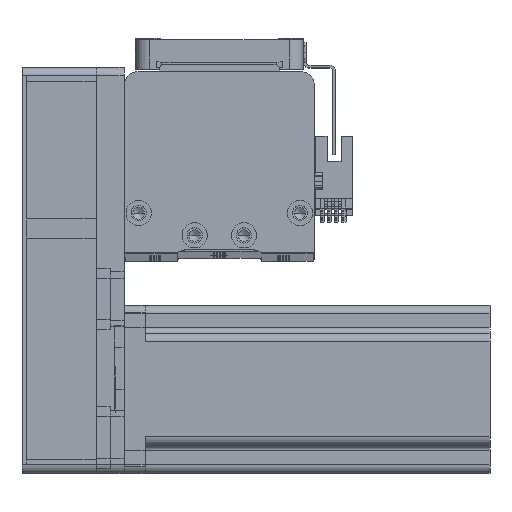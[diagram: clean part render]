
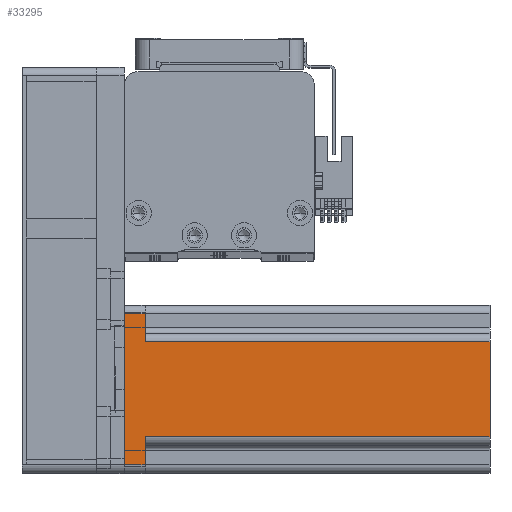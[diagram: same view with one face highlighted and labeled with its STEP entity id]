
A CAD part, top view. The second image highlights one B-rep face of the part: STEP entity #33295.
In plain terms, the highlighted planar face has unit normal (0, 0, 1) as drawn and (0, -1, 0) by its records, which use the part's own axes.
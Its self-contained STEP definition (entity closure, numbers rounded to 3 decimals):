
#1388 = DIRECTION ( 'NONE',  ( -1., 0., 0. ) ) ;
#1431 = AXIS2_PLACEMENT_3D ( 'NONE', #18191, #46937, #22315 ) ;
#1933 = DIRECTION ( 'NONE',  ( 1., 0., 0. ) ) ;
#3733 = CARTESIAN_POINT ( 'NONE',  ( 30., -30., 130.7 ) ) ;
#4481 = FACE_OUTER_BOUND ( 'NONE', #31182, .T. ) ;
#6118 = ORIENTED_EDGE ( 'NONE', *, *, #20941, .T. ) ;
#7701 = VERTEX_POINT ( 'NONE', #42173 ) ;
#8423 = VECTOR ( 'NONE', #1933, 1000. ) ;
#8552 = ORIENTED_EDGE ( 'NONE', *, *, #52414, .T. ) ;
#8896 = LINE ( 'NONE', #24105, #30676 ) ;
#9662 = CARTESIAN_POINT ( 'NONE',  ( 30., -30., 0. ) ) ;
#10373 = CARTESIAN_POINT ( 'NONE',  ( -17., -30., 130.7 ) ) ;
#10430 = CARTESIAN_POINT ( 'NONE',  ( -27., -30., 7.5 ) ) ;
#11056 = ORIENTED_EDGE ( 'NONE', *, *, #13433, .T. ) ;
#11540 = VECTOR ( 'NONE', #28764, 1000. ) ;
#12833 = VERTEX_POINT ( 'NONE', #51144 ) ;
#13433 = EDGE_CURVE ( 'NONE', #28374, #7701, #44290, .T. ) ;
#14974 = VECTOR ( 'NONE', #34195, 1000. ) ;
#15881 = VERTEX_POINT ( 'NONE', #51773 ) ;
#17419 = CARTESIAN_POINT ( 'NONE',  ( 17., -30., 130.7 ) ) ;
#17766 = CARTESIAN_POINT ( 'NONE',  ( 20., -30., 7.5 ) ) ;
#18191 = CARTESIAN_POINT ( 'NONE',  ( 30., -30., 130.7 ) ) ;
#19896 = CARTESIAN_POINT ( 'NONE',  ( 27., -30., 0. ) ) ;
#20138 = DIRECTION ( 'NONE',  ( 1., 0., 0. ) ) ;
#20514 = CARTESIAN_POINT ( 'NONE',  ( 27., -30., 130.7 ) ) ;
#20941 = EDGE_CURVE ( 'NONE', #24311, #12833, #8896, .T. ) ;
#21527 = ORIENTED_EDGE ( 'NONE', *, *, #23461, .T. ) ;
#22315 = DIRECTION ( 'NONE',  ( -1., 0., 0. ) ) ;
#22699 = ORIENTED_EDGE ( 'NONE', *, *, #44645, .T. ) ;
#22969 = CARTESIAN_POINT ( 'NONE',  ( -17., -30., 130.7 ) ) ;
#23461 = EDGE_CURVE ( 'NONE', #7701, #28076, #26072, .T. ) ;
#24105 = CARTESIAN_POINT ( 'NONE',  ( -27., -30., 130.7 ) ) ;
#24311 = VERTEX_POINT ( 'NONE', #10430 ) ;
#24610 = CARTESIAN_POINT ( 'NONE',  ( 17., -30., 130.7 ) ) ;
#24755 = VECTOR ( 'NONE', #1388, 1000. ) ;
#24965 = ORIENTED_EDGE ( 'NONE', *, *, #46911, .T. ) ;
#25202 = ORIENTED_EDGE ( 'NONE', *, *, #47699, .F. ) ;
#26072 = LINE ( 'NONE', #17766, #24755 ) ;
#26827 = VERTEX_POINT ( 'NONE', #10373 ) ;
#26854 = LINE ( 'NONE', #22969, #36452 ) ;
#27835 = EDGE_CURVE ( 'NONE', #26827, #40270, #50306, .T. ) ;
#28076 = VERTEX_POINT ( 'NONE', #34103 ) ;
#28374 = VERTEX_POINT ( 'NONE', #19896 ) ;
#28764 = DIRECTION ( 'NONE',  ( 0., 0., 1. ) ) ;
#29866 = ORIENTED_EDGE ( 'NONE', *, *, #27835, .F. ) ;
#30167 = LINE ( 'NONE', #24610, #39769 ) ;
#30676 = VECTOR ( 'NONE', #44440, 1000. ) ;
#31182 = EDGE_LOOP ( 'NONE', ( #29866, #24965, #25202, #6118, #22699, #11056, #21527, #8552 ) ) ;
#33295 = ADVANCED_FACE ( 'NONE', ( #4481 ), #50910, .F. ) ;
#34103 = CARTESIAN_POINT ( 'NONE',  ( 17., -30., 7.5 ) ) ;
#34195 = DIRECTION ( 'NONE',  ( 1., 0., 0. ) ) ;
#36452 = VECTOR ( 'NONE', #47808, 1000. ) ;
#36810 = LINE ( 'NONE', #9662, #14974 ) ;
#39769 = VECTOR ( 'NONE', #45094, 1000. ) ;
#40270 = VERTEX_POINT ( 'NONE', #17419 ) ;
#42173 = CARTESIAN_POINT ( 'NONE',  ( 27., -30., 7.5 ) ) ;
#43090 = CARTESIAN_POINT ( 'NONE',  ( -20., -30., 7.5 ) ) ;
#44290 = LINE ( 'NONE', #20514, #11540 ) ;
#44440 = DIRECTION ( 'NONE',  ( 0., 0., -1. ) ) ;
#44645 = EDGE_CURVE ( 'NONE', #12833, #28374, #36810, .T. ) ;
#45094 = DIRECTION ( 'NONE',  ( 0., 0., 1. ) ) ;
#46911 = EDGE_CURVE ( 'NONE', #26827, #15881, #26854, .T. ) ;
#46937 = DIRECTION ( 'NONE',  ( 0., 1., 0. ) ) ;
#47699 = EDGE_CURVE ( 'NONE', #24311, #15881, #52051, .T. ) ;
#47808 = DIRECTION ( 'NONE',  ( 0., 0., -1. ) ) ;
#48999 = VECTOR ( 'NONE', #20138, 1000. ) ;
#50306 = LINE ( 'NONE', #3733, #48999 ) ;
#50910 = PLANE ( 'NONE',  #1431 ) ;
#51144 = CARTESIAN_POINT ( 'NONE',  ( -27., -30., 0. ) ) ;
#51773 = CARTESIAN_POINT ( 'NONE',  ( -17., -30., 7.5 ) ) ;
#52051 = LINE ( 'NONE', #43090, #8423 ) ;
#52414 = EDGE_CURVE ( 'NONE', #28076, #40270, #30167, .T. ) ;
